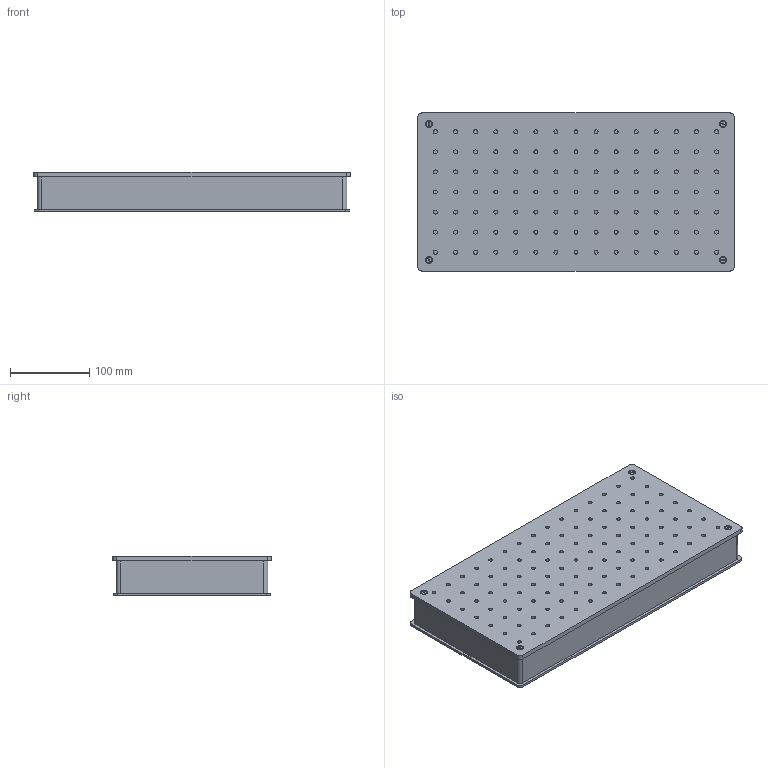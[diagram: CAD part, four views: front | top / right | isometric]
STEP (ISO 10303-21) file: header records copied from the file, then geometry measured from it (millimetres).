
FILE_DESCRIPTION(/* description */ (''),/* implementation_level */ '2;1');
FILE_NAME(/* name */ 'U:\KONSTRUKTORIAI\DOKUMENTACIJA\1\1HB-AL\1HB-AL-02-04-05-BL\step\1HB-AL-E-02-04-05-BL.stp',/* time_stamp */ '2018-02-15T15:27:35+02:00',/* author */ ('dsgn31'),/* organization */ (''),/* preprocessor_version */ 'ST-DEVELOPER v15.2',/* originating_system */ 'Autodesk Inventor 2014',/* authorisation */ '');
FILE_SCHEMA (('AUTOMOTIVE_DESIGN { 1 0 10303 214 3 1 1 }'));
Length unit declared in the file: inch
Products named in the file (1): 1HB-AL-E-02-04-05_Shrinkwrap_1
Bounding box: 400 x 200 x 50 mm (x, y, z)
Volume: 3790487.9 mm3; surface area: 237344.2 mm2
Topology: 1 solids, 7 shells, 342 faces, 649 edges, 436 vertices
Faces by surface type: plane 173, cylinder 153, cone 16
Full cylindrical faces by diameter (mm): 4 x8, 4.5 x8, 4.917 x109
Entity records: 7961 total; most frequent: DIRECTION 1458, CARTESIAN_POINT 1283, ORIENTED_EDGE 948, AXIS2_PLACEMENT_3D 673, EDGE_LOOP 610, EDGE_CURVE 474, VERTEX_POINT 402, ADVANCED_FACE 342
